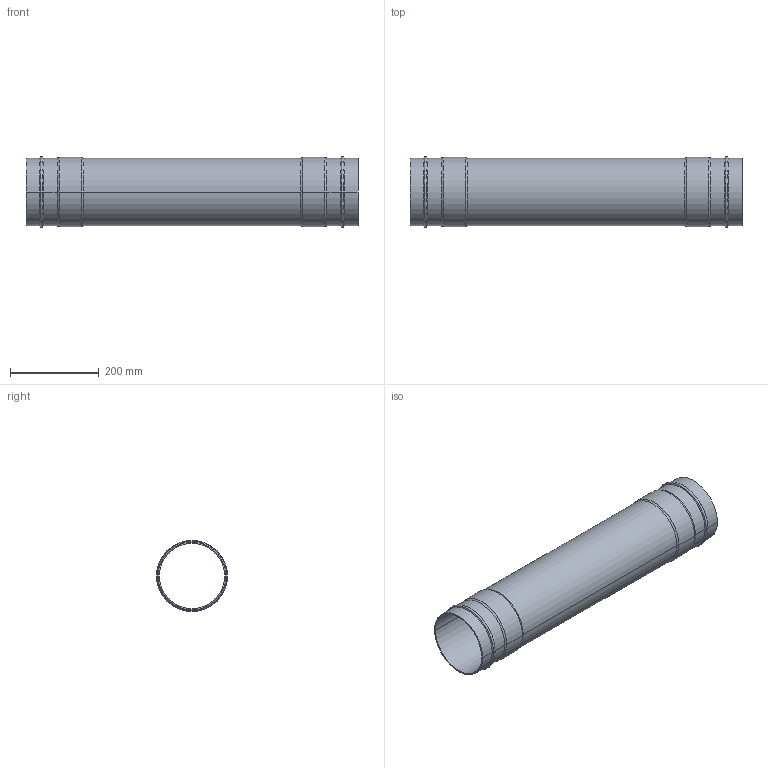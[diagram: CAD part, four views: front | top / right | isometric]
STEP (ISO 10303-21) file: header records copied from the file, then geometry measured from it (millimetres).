
FILE_DESCRIPTION((''),'2;1');
FILE_NAME('2016905500','2017-05-12T',('Administrator'),(''),'PRO/ENGINEER BY PARAMETRIC TECHNOLOGY CORPORATION, 2009360','PRO/ENGINEER BY PARAMETRIC TECHNOLOGY CORPORATION, 2009360','');
FILE_SCHEMA(('AUTOMOTIVE_DESIGN_CC2 { 1 2 10303 214 -1 1 5 2 }'));
Length unit declared in the file: millimetre
Products named in the file (1): 2016905500
Bounding box: 750 x 160.48 x 160.48 mm (x, y, z)
Volume: 1187129 mm3; surface area: 717675.4 mm2
Topology: 1 solids, 1 shells, 38 faces, 76 edges, 40 vertices
Faces by surface type: cylinder 16, torus 12, cone 8, plane 2
Entity records: 1239 total; most frequent: DIRECTION 204, CARTESIAN_POINT 154, ORIENTED_EDGE 152, AXIS2_PLACEMENT_3D 90, PRESENTATION_STYLE_ASSIGNMENT 77, STYLED_ITEM 77, CURVE_STYLE 76, EDGE_CURVE 76
